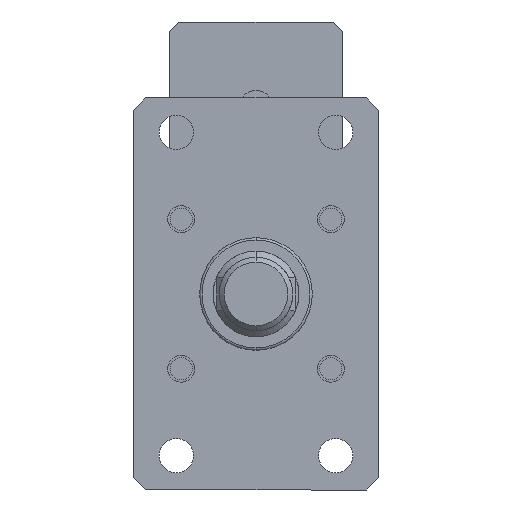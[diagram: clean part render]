
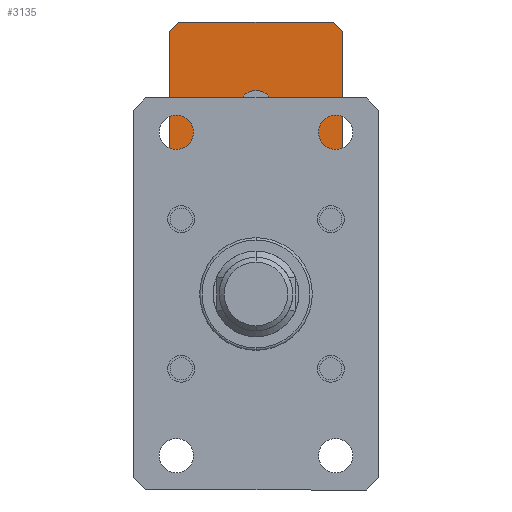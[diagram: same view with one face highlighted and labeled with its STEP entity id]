
A CAD part, front view. The second image highlights one B-rep face of the part: STEP entity #3135.
In plain terms, the highlighted planar face has unit normal (0, -1, 0).
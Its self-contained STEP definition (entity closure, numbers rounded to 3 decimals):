
#42 = EDGE_CURVE ( 'NONE', #3857, #7256, #2964, .T. ) ;
#58 = VERTEX_POINT ( 'NONE', #910 ) ;
#122 = ORIENTED_EDGE ( 'NONE', *, *, #2315, .F. ) ;
#176 = DIRECTION ( 'NONE',  ( 1., 0., 0. ) ) ;
#179 = DIRECTION ( 'NONE',  ( -0.707, 0., 0.707 ) ) ;
#208 = ORIENTED_EDGE ( 'NONE', *, *, #966, .T. ) ;
#285 = PLANE ( 'NONE',  #5294 ) ;
#464 = ORIENTED_EDGE ( 'NONE', *, *, #796, .T. ) ;
#676 = DIRECTION ( 'NONE',  ( 0., -1., 0. ) ) ;
#765 = FACE_OUTER_BOUND ( 'NONE', #4866, .T. ) ;
#796 = EDGE_CURVE ( 'NONE', #6564, #3339, #5917, .T. ) ;
#853 = CIRCLE ( 'NONE', #3599, 7.5 ) ;
#910 = CARTESIAN_POINT ( 'NONE',  ( 31.5, 260., 40. ) ) ;
#916 = CARTESIAN_POINT ( 'NONE',  ( -31.5, 260., 111. ) ) ;
#966 = EDGE_CURVE ( 'NONE', #2041, #2798, #5350, .T. ) ;
#1022 = CARTESIAN_POINT ( 'NONE',  ( 31.5, 260., 111. ) ) ;
#1446 = DIRECTION ( 'NONE',  ( 0., 1., 0. ) ) ;
#1628 = ORIENTED_EDGE ( 'NONE', *, *, #2276, .T. ) ;
#1767 = CARTESIAN_POINT ( 'NONE',  ( 0., 260., 75.5 ) ) ;
#1778 = DIRECTION ( 'NONE',  ( 0.707, 0., 0.707 ) ) ;
#1856 = CIRCLE ( 'NONE', #2917, 7.5 ) ;
#2021 = CARTESIAN_POINT ( 'NONE',  ( -35.5, 260., 111. ) ) ;
#2029 = VECTOR ( 'NONE', #4710, 1000. ) ;
#2041 = VERTEX_POINT ( 'NONE', #4832 ) ;
#2276 = EDGE_CURVE ( 'NONE', #58, #2579, #6823, .T. ) ;
#2315 = EDGE_CURVE ( 'NONE', #4776, #4110, #1856, .T. ) ;
#2327 = FACE_BOUND ( 'NONE', #3826, .T. ) ;
#2379 = DIRECTION ( 'NONE',  ( 0., 0., -1. ) ) ;
#2579 = VERTEX_POINT ( 'NONE', #6162 ) ;
#2652 = DIRECTION ( 'NONE',  ( 0.707, 0., -0.707 ) ) ;
#2786 = CARTESIAN_POINT ( 'NONE',  ( 35.5, 260., 111. ) ) ;
#2798 = VERTEX_POINT ( 'NONE', #1022 ) ;
#2848 = VECTOR ( 'NONE', #4577, 1000. ) ;
#2884 = LINE ( 'NONE', #3721, #7637 ) ;
#2917 = AXIS2_PLACEMENT_3D ( 'NONE', #4222, #676, #4804 ) ;
#2964 = LINE ( 'NONE', #4423, #7366 ) ;
#3000 = CARTESIAN_POINT ( 'NONE',  ( 0., 260., 68. ) ) ;
#3016 = CARTESIAN_POINT ( 'NONE',  ( -31.5, 260., 111. ) ) ;
#3083 = ORIENTED_EDGE ( 'NONE', *, *, #4261, .F. ) ;
#3132 = VECTOR ( 'NONE', #5761, 1000. ) ;
#3135 = ADVANCED_FACE ( 'NONE', ( #2327, #765 ), #285, .F. ) ;
#3339 = VERTEX_POINT ( 'NONE', #3683 ) ;
#3350 = LINE ( 'NONE', #2786, #3132 ) ;
#3382 = CARTESIAN_POINT ( 'NONE',  ( -35.5, 260., 111. ) ) ;
#3592 = CARTESIAN_POINT ( 'NONE',  ( 31.5, 260., 111. ) ) ;
#3594 = ORIENTED_EDGE ( 'NONE', *, *, #4417, .T. ) ;
#3597 = LINE ( 'NONE', #7089, #2029 ) ;
#3599 = AXIS2_PLACEMENT_3D ( 'NONE', #1767, #5962, #2379 ) ;
#3634 = VECTOR ( 'NONE', #1778, 1000. ) ;
#3683 = CARTESIAN_POINT ( 'NONE',  ( -35.5, 260., 107. ) ) ;
#3721 = CARTESIAN_POINT ( 'NONE',  ( -35.5, 260., 111. ) ) ;
#3826 = EDGE_LOOP ( 'NONE', ( #122, #7062 ) ) ;
#3857 = VERTEX_POINT ( 'NONE', #6246 ) ;
#3951 = EDGE_CURVE ( 'NONE', #4110, #4776, #853, .T. ) ;
#4110 = VERTEX_POINT ( 'NONE', #5521 ) ;
#4176 = CARTESIAN_POINT ( 'NONE',  ( 35.5, 260., 44. ) ) ;
#4222 = CARTESIAN_POINT ( 'NONE',  ( 0., 260., 75.5 ) ) ;
#4261 = EDGE_CURVE ( 'NONE', #2041, #2579, #3350, .T. ) ;
#4417 = EDGE_CURVE ( 'NONE', #7256, #58, #3597, .T. ) ;
#4423 = CARTESIAN_POINT ( 'NONE',  ( -35.5, 260., 44. ) ) ;
#4432 = LINE ( 'NONE', #3382, #2848 ) ;
#4528 = VECTOR ( 'NONE', #5057, 1000. ) ;
#4577 = DIRECTION ( 'NONE',  ( 0., 0., -1. ) ) ;
#4710 = DIRECTION ( 'NONE',  ( 1., 0., 0. ) ) ;
#4776 = VERTEX_POINT ( 'NONE', #3000 ) ;
#4804 = DIRECTION ( 'NONE',  ( 0., 0., -1. ) ) ;
#4832 = CARTESIAN_POINT ( 'NONE',  ( 35.5, 260., 107. ) ) ;
#4866 = EDGE_LOOP ( 'NONE', ( #7644, #4965, #3594, #1628, #3083, #208, #7047, #464 ) ) ;
#4896 = EDGE_CURVE ( 'NONE', #6564, #2798, #2884, .T. ) ;
#4965 = ORIENTED_EDGE ( 'NONE', *, *, #42, .T. ) ;
#5057 = DIRECTION ( 'NONE',  ( -0.707, 0., -0.707 ) ) ;
#5294 = AXIS2_PLACEMENT_3D ( 'NONE', #2021, #1446, #5635 ) ;
#5350 = LINE ( 'NONE', #3592, #6948 ) ;
#5521 = CARTESIAN_POINT ( 'NONE',  ( 0., 260., 83. ) ) ;
#5635 = DIRECTION ( 'NONE',  ( 0., 0., 1. ) ) ;
#5761 = DIRECTION ( 'NONE',  ( 0., 0., -1. ) ) ;
#5917 = LINE ( 'NONE', #916, #4528 ) ;
#5962 = DIRECTION ( 'NONE',  ( 0., -1., 0. ) ) ;
#6162 = CARTESIAN_POINT ( 'NONE',  ( 35.5, 260., 44. ) ) ;
#6246 = CARTESIAN_POINT ( 'NONE',  ( -35.5, 260., 44. ) ) ;
#6564 = VERTEX_POINT ( 'NONE', #3016 ) ;
#6823 = LINE ( 'NONE', #4176, #3634 ) ;
#6913 = EDGE_CURVE ( 'NONE', #3339, #3857, #4432, .T. ) ;
#6948 = VECTOR ( 'NONE', #179, 1000. ) ;
#7047 = ORIENTED_EDGE ( 'NONE', *, *, #4896, .F. ) ;
#7062 = ORIENTED_EDGE ( 'NONE', *, *, #3951, .F. ) ;
#7089 = CARTESIAN_POINT ( 'NONE',  ( -35.5, 260., 40. ) ) ;
#7256 = VERTEX_POINT ( 'NONE', #7545 ) ;
#7366 = VECTOR ( 'NONE', #2652, 1000. ) ;
#7545 = CARTESIAN_POINT ( 'NONE',  ( -31.5, 260., 40. ) ) ;
#7637 = VECTOR ( 'NONE', #176, 1000. ) ;
#7644 = ORIENTED_EDGE ( 'NONE', *, *, #6913, .T. ) ;
